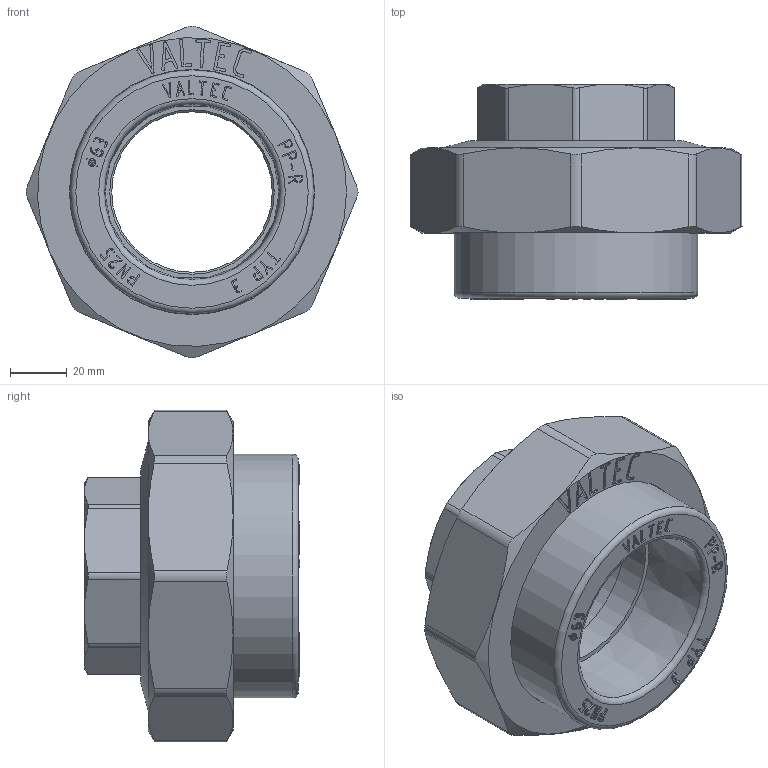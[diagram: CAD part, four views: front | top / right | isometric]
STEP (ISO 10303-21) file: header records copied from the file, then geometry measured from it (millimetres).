
FILE_DESCRIPTION(('STEP AP203'), '1');
FILE_NAME('VTp.762.0.06309', '2026-07-17T12:32:47', ('ledenevaEA'), (''), 'C3D Converter', 'C3D Toolkit', '');
FILE_SCHEMA(('CONFIG_CONTROL_DESIGN'));
Length unit declared in the file: millimetre
Products named in the file (1): ВР.302634.117.000 СБ
Bounding box: 117.16 x 76 x 117.16 mm (x, y, z)
Volume: 302605.1 mm3; surface area: 52206.5 mm2
Topology: 1 solids, 1 shells, 721 faces, 2020 edges, 1341 vertices
Faces by surface type: extrusion 400, plane 284, cylinder 21, cone 14, torus 2
Full cylindrical faces by diameter (mm): 56.657 x1, 58 x1, 60 x1, 86 x1, 86.5 x1
Entity records: 25124 total; most frequent: CARTESIAN_POINT 8372, ORIENTED_EDGE 3978, DIRECTION 2199, EDGE_CURVE 1989, VECTOR 1509, VERTEX_POINT 1332, B_SPLINE_CURVE_WITH_KNOTS 1251, LINE 1109
